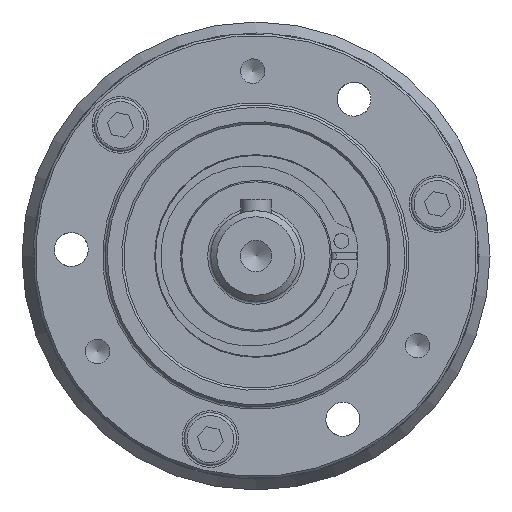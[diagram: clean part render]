
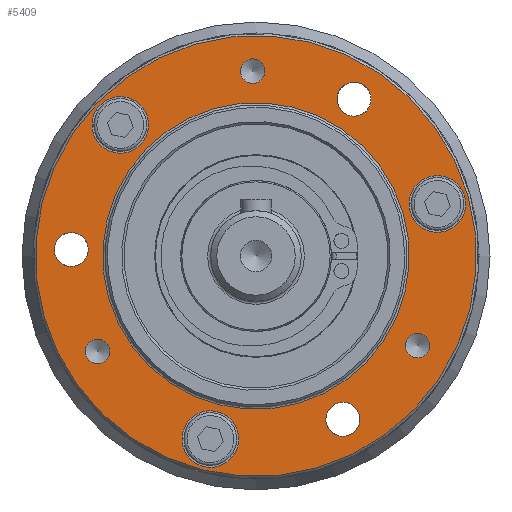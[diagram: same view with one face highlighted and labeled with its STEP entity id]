
A CAD part, left-side view. The second image highlights one B-rep face of the part: STEP entity #5409.
In plain terms, the highlighted planar face has unit normal (-1, 0, 0).
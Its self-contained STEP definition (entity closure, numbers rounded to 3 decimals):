
#904=PLANE('',#5888);
#1064=FACE_BOUND('',#1741,.T.);
#1065=FACE_BOUND('',#1742,.T.);
#1066=FACE_BOUND('',#1743,.T.);
#1067=FACE_BOUND('',#1744,.T.);
#1068=FACE_BOUND('',#1745,.T.);
#1069=FACE_BOUND('',#1746,.T.);
#1070=FACE_BOUND('',#1747,.T.);
#1071=FACE_BOUND('',#1748,.T.);
#1072=FACE_BOUND('',#1749,.T.);
#1073=FACE_BOUND('',#1750,.T.);
#1329=FACE_OUTER_BOUND('',#1740,.T.);
#1740=EDGE_LOOP('',(#4276));
#1741=EDGE_LOOP('',(#4277));
#1742=EDGE_LOOP('',(#4278));
#1743=EDGE_LOOP('',(#4279));
#1744=EDGE_LOOP('',(#4280));
#1745=EDGE_LOOP('',(#4281));
#1746=EDGE_LOOP('',(#4282));
#1747=EDGE_LOOP('',(#4283));
#1748=EDGE_LOOP('',(#4284));
#1749=EDGE_LOOP('',(#4285));
#1750=EDGE_LOOP('',(#4286));
#1994=CIRCLE('',#5623,2.25);
#1996=CIRCLE('',#5626,2.25);
#1998=CIRCLE('',#5629,2.25);
#2132=CIRCLE('',#5887,20.3);
#2133=CIRCLE('',#5889,29.2);
#2134=CIRCLE('',#5890,1.621);
#2135=CIRCLE('',#5891,1.621);
#2136=CIRCLE('',#5892,1.621);
#2137=CIRCLE('',#5893,3.75);
#2138=CIRCLE('',#5894,3.75);
#2139=CIRCLE('',#5895,3.75);
#2307=VERTEX_POINT('',#7788);
#2309=VERTEX_POINT('',#7793);
#2311=VERTEX_POINT('',#7798);
#2565=VERTEX_POINT('',#9013);
#2566=VERTEX_POINT('',#9016);
#2567=VERTEX_POINT('',#9018);
#2568=VERTEX_POINT('',#9020);
#2569=VERTEX_POINT('',#9022);
#2570=VERTEX_POINT('',#9024);
#2571=VERTEX_POINT('',#9026);
#2572=VERTEX_POINT('',#9028);
#2801=EDGE_CURVE('',#2307,#2307,#1994,.T.);
#2803=EDGE_CURVE('',#2309,#2309,#1996,.T.);
#2805=EDGE_CURVE('',#2311,#2311,#1998,.T.);
#3172=EDGE_CURVE('',#2565,#2565,#2132,.T.);
#3173=EDGE_CURVE('',#2566,#2566,#2133,.T.);
#3174=EDGE_CURVE('',#2567,#2567,#2134,.T.);
#3175=EDGE_CURVE('',#2568,#2568,#2135,.T.);
#3176=EDGE_CURVE('',#2569,#2569,#2136,.T.);
#3177=EDGE_CURVE('',#2570,#2570,#2137,.T.);
#3178=EDGE_CURVE('',#2571,#2571,#2138,.T.);
#3179=EDGE_CURVE('',#2572,#2572,#2139,.T.);
#4276=ORIENTED_EDGE('',*,*,#3173,.F.);
#4277=ORIENTED_EDGE('',*,*,#2801,.T.);
#4278=ORIENTED_EDGE('',*,*,#2803,.T.);
#4279=ORIENTED_EDGE('',*,*,#2805,.T.);
#4280=ORIENTED_EDGE('',*,*,#3174,.T.);
#4281=ORIENTED_EDGE('',*,*,#3175,.T.);
#4282=ORIENTED_EDGE('',*,*,#3176,.T.);
#4283=ORIENTED_EDGE('',*,*,#3177,.T.);
#4284=ORIENTED_EDGE('',*,*,#3178,.T.);
#4285=ORIENTED_EDGE('',*,*,#3179,.T.);
#4286=ORIENTED_EDGE('',*,*,#3172,.F.);
#5409=ADVANCED_FACE('',(#1329,#1064,#1065,#1066,#1067,#1068,#1069,#1070,
#1071,#1072,#1073),#904,.T.);
#5623=AXIS2_PLACEMENT_3D('',#7789,#6313,#6314);
#5626=AXIS2_PLACEMENT_3D('',#7794,#6319,#6320);
#5629=AXIS2_PLACEMENT_3D('',#7799,#6325,#6326);
#5887=AXIS2_PLACEMENT_3D('',#9014,#7008,#7009);
#5888=AXIS2_PLACEMENT_3D('',#9015,#7010,#7011);
#5889=AXIS2_PLACEMENT_3D('',#9017,#7012,#7013);
#5890=AXIS2_PLACEMENT_3D('',#9019,#7014,#7015);
#5891=AXIS2_PLACEMENT_3D('',#9021,#7016,#7017);
#5892=AXIS2_PLACEMENT_3D('',#9023,#7018,#7019);
#5893=AXIS2_PLACEMENT_3D('',#9025,#7020,#7021);
#5894=AXIS2_PLACEMENT_3D('',#9027,#7022,#7023);
#5895=AXIS2_PLACEMENT_3D('',#9029,#7024,#7025);
#6313=DIRECTION('center_axis',(1.,0.,0.));
#6314=DIRECTION('ref_axis',(0.,0.276,0.961));
#6319=DIRECTION('center_axis',(1.,0.,0.));
#6320=DIRECTION('ref_axis',(0.,0.276,0.961));
#6325=DIRECTION('center_axis',(1.,0.,0.));
#6326=DIRECTION('ref_axis',(0.,0.276,0.961));
#7008=DIRECTION('center_axis',(-1.,0.,0.));
#7009=DIRECTION('ref_axis',(0.,-0.961,0.276));
#7010=DIRECTION('center_axis',(-1.,0.,0.));
#7011=DIRECTION('ref_axis',(0.,0.276,0.961));
#7012=DIRECTION('center_axis',(1.,0.,0.));
#7013=DIRECTION('ref_axis',(0.,-0.961,0.276));
#7014=DIRECTION('center_axis',(1.,0.,0.));
#7015=DIRECTION('ref_axis',(0.,0.276,0.961));
#7016=DIRECTION('center_axis',(1.,0.,0.));
#7017=DIRECTION('ref_axis',(0.,0.276,0.961));
#7018=DIRECTION('center_axis',(1.,0.,0.));
#7019=DIRECTION('ref_axis',(0.,0.276,0.961));
#7020=DIRECTION('center_axis',(1.,0.,0.));
#7021=DIRECTION('ref_axis',(0.,0.276,0.961));
#7022=DIRECTION('center_axis',(1.,0.,0.));
#7023=DIRECTION('ref_axis',(0.,0.276,0.961));
#7024=DIRECTION('center_axis',(1.,0.,0.));
#7025=DIRECTION('ref_axis',(0.,0.276,0.961));
#7788=CARTESIAN_POINT('',(3.,-12.122,-23.795));
#7789=CARTESIAN_POINT('Origin',(3.,-11.502,-21.632));
#7793=CARTESIAN_POINT('',(3.,-13.603,18.614));
#7794=CARTESIAN_POINT('Origin',(3.,-12.983,20.777));
#7798=CARTESIAN_POINT('',(3.,23.865,-1.308));
#7799=CARTESIAN_POINT('Origin',(3.,24.485,0.855));
#9013=CARTESIAN_POINT('',(3.,19.514,-5.595));
#9014=CARTESIAN_POINT('Origin',(3.,0.,0.));
#9015=CARTESIAN_POINT('Origin',(3.,23.791,-6.822));
#9016=CARTESIAN_POINT('',(3.,28.069,-8.049));
#9017=CARTESIAN_POINT('Origin',(3.,0.,0.));
#9018=CARTESIAN_POINT('',(3.,-0.019,22.938));
#9019=CARTESIAN_POINT('Origin',(3.,0.428,24.496));
#9020=CARTESIAN_POINT('',(3.,20.554,-14.177));
#9021=CARTESIAN_POINT('Origin',(3.,21.001,-12.618));
#9022=CARTESIAN_POINT('',(3.,-21.875,-13.436));
#9023=CARTESIAN_POINT('Origin',(3.,-21.428,-11.878));
#9024=CARTESIAN_POINT('',(3.,16.95,13.762));
#9025=CARTESIAN_POINT('Origin',(3.,17.983,17.366));
#9026=CARTESIAN_POINT('',(3.,5.014,-27.862));
#9027=CARTESIAN_POINT('Origin',(3.,6.048,-24.257));
#9028=CARTESIAN_POINT('',(3.,-25.065,3.286));
#9029=CARTESIAN_POINT('Origin',(3.,-24.032,6.891));
